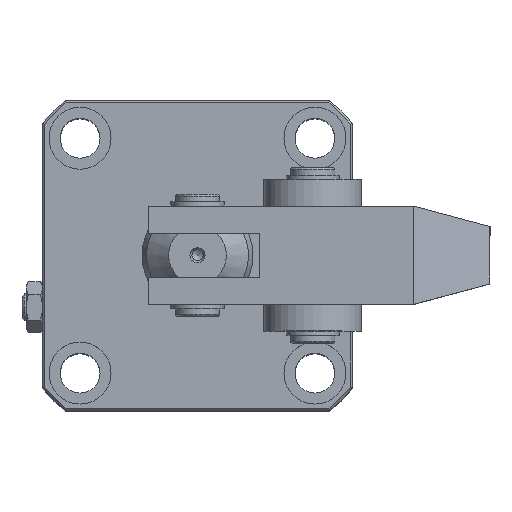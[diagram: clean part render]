
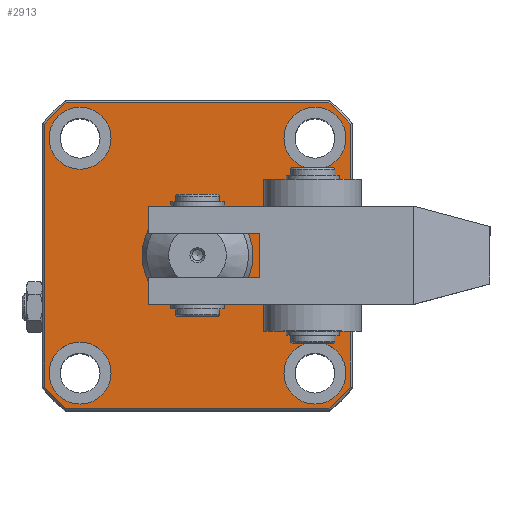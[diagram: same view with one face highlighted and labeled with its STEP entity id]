
A CAD part, top view. The second image highlights one B-rep face of the part: STEP entity #2913.
In plain terms, the highlighted planar face has unit normal (0, 0, 1).
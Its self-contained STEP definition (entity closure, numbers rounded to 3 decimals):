
#232=LINE('',#4455,#387);
#233=LINE('',#4458,#388);
#234=LINE('',#4460,#389);
#235=LINE('',#4464,#390);
#236=LINE('',#4468,#391);
#237=LINE('',#4472,#392);
#238=LINE('',#4476,#393);
#239=LINE('',#4478,#394);
#387=VECTOR('',#3579,1000.);
#388=VECTOR('',#3580,1000.);
#389=VECTOR('',#3581,1000.);
#390=VECTOR('',#3584,1000.);
#391=VECTOR('',#3587,1000.);
#392=VECTOR('',#3590,1000.);
#393=VECTOR('',#3593,1000.);
#394=VECTOR('',#3594,1000.);
#542=PLANE('',#3203);
#642=ORIENTED_EDGE('',*,*,#1429,.T.);
#643=ORIENTED_EDGE('',*,*,#1430,.F.);
#644=ORIENTED_EDGE('',*,*,#1431,.F.);
#645=ORIENTED_EDGE('',*,*,#1432,.F.);
#646=ORIENTED_EDGE('',*,*,#1433,.F.);
#647=ORIENTED_EDGE('',*,*,#1434,.T.);
#648=ORIENTED_EDGE('',*,*,#1435,.T.);
#649=ORIENTED_EDGE('',*,*,#1436,.T.);
#650=ORIENTED_EDGE('',*,*,#1437,.T.);
#651=ORIENTED_EDGE('',*,*,#1438,.T.);
#652=ORIENTED_EDGE('',*,*,#1439,.T.);
#653=ORIENTED_EDGE('',*,*,#1440,.T.);
#654=ORIENTED_EDGE('',*,*,#1441,.T.);
#655=ORIENTED_EDGE('',*,*,#1442,.T.);
#656=ORIENTED_EDGE('',*,*,#1443,.T.);
#657=ORIENTED_EDGE('',*,*,#1444,.T.);
#658=ORIENTED_EDGE('',*,*,#1445,.F.);
#1429=EDGE_CURVE('',#1823,#1823,#2097,.T.);
#1430=EDGE_CURVE('',#1824,#1824,#2098,.T.);
#1431=EDGE_CURVE('',#1825,#1825,#2099,.T.);
#1432=EDGE_CURVE('',#1826,#1826,#2100,.T.);
#1433=EDGE_CURVE('',#1827,#1827,#2101,.T.);
#1434=EDGE_CURVE('',#1828,#1829,#232,.T.);
#1435=EDGE_CURVE('',#1829,#1830,#233,.T.);
#1436=EDGE_CURVE('',#1830,#1831,#234,.T.);
#1437=EDGE_CURVE('',#1831,#1832,#2102,.T.);
#1438=EDGE_CURVE('',#1832,#1833,#235,.T.);
#1439=EDGE_CURVE('',#1833,#1834,#2103,.T.);
#1440=EDGE_CURVE('',#1834,#1835,#236,.T.);
#1441=EDGE_CURVE('',#1835,#1836,#2104,.T.);
#1442=EDGE_CURVE('',#1836,#1837,#237,.T.);
#1443=EDGE_CURVE('',#1837,#1838,#2105,.T.);
#1444=EDGE_CURVE('',#1838,#1839,#238,.T.);
#1445=EDGE_CURVE('',#1828,#1839,#239,.T.);
#1823=VERTEX_POINT('',#4445);
#1824=VERTEX_POINT('',#4448);
#1825=VERTEX_POINT('',#4450);
#1826=VERTEX_POINT('',#4452);
#1827=VERTEX_POINT('',#4454);
#1828=VERTEX_POINT('',#4456);
#1829=VERTEX_POINT('',#4457);
#1830=VERTEX_POINT('',#4459);
#1831=VERTEX_POINT('',#4461);
#1832=VERTEX_POINT('',#4463);
#1833=VERTEX_POINT('',#4465);
#1834=VERTEX_POINT('',#4467);
#1835=VERTEX_POINT('',#4469);
#1836=VERTEX_POINT('',#4471);
#1837=VERTEX_POINT('',#4473);
#1838=VERTEX_POINT('',#4475);
#1839=VERTEX_POINT('',#4477);
#2097=CIRCLE('',#3202,12.5);
#2098=CIRCLE('',#3204,7.);
#2099=CIRCLE('',#3205,7.);
#2100=CIRCLE('',#3206,7.);
#2101=CIRCLE('',#3207,7.);
#2102=CIRCLE('',#3208,45.5);
#2103=CIRCLE('',#3209,45.5);
#2104=CIRCLE('',#3210,45.5);
#2105=CIRCLE('',#3211,45.5);
#2246=EDGE_LOOP('',(#642));
#2247=EDGE_LOOP('',(#643));
#2248=EDGE_LOOP('',(#644));
#2249=EDGE_LOOP('',(#645));
#2250=EDGE_LOOP('',(#646));
#2251=EDGE_LOOP('',(#647,#648,#649,#650,#651,#652,#653,#654,#655,#656,#657,
#658));
#2551=FACE_BOUND('',#2246,.T.);
#2552=FACE_BOUND('',#2247,.T.);
#2553=FACE_BOUND('',#2248,.T.);
#2554=FACE_BOUND('',#2249,.T.);
#2555=FACE_BOUND('',#2250,.T.);
#2556=FACE_BOUND('',#2251,.T.);
#2913=ADVANCED_FACE('',(#2551,#2552,#2553,#2554,#2555,#2556),#542,.T.);
#3202=AXIS2_PLACEMENT_3D('',#4444,#3567,#3568);
#3203=AXIS2_PLACEMENT_3D('',#4446,#3569,#3570);
#3204=AXIS2_PLACEMENT_3D('',#4447,#3571,#3572);
#3205=AXIS2_PLACEMENT_3D('',#4449,#3573,#3574);
#3206=AXIS2_PLACEMENT_3D('',#4451,#3575,#3576);
#3207=AXIS2_PLACEMENT_3D('',#4453,#3577,#3578);
#3208=AXIS2_PLACEMENT_3D('',#4462,#3582,#3583);
#3209=AXIS2_PLACEMENT_3D('',#4466,#3585,#3586);
#3210=AXIS2_PLACEMENT_3D('',#4470,#3588,#3589);
#3211=AXIS2_PLACEMENT_3D('',#4474,#3591,#3592);
#3567=DIRECTION('',(0.,0.,-1.));
#3568=DIRECTION('',(0.,-1.,0.));
#3569=DIRECTION('',(0.,0.,1.));
#3570=DIRECTION('',(1.,0.,0.));
#3571=DIRECTION('',(0.,0.,1.));
#3572=DIRECTION('',(1.,0.,0.));
#3573=DIRECTION('',(0.,0.,1.));
#3574=DIRECTION('',(1.,0.,0.));
#3575=DIRECTION('',(0.,0.,1.));
#3576=DIRECTION('',(1.,0.,0.));
#3577=DIRECTION('',(0.,0.,1.));
#3578=DIRECTION('',(1.,0.,0.));
#3579=DIRECTION('',(0.,1.,0.));
#3580=DIRECTION('',(1.,0.,0.));
#3581=DIRECTION('',(0.,1.,0.));
#3582=DIRECTION('',(0.,0.,1.));
#3583=DIRECTION('',(1.,0.,0.));
#3584=DIRECTION('',(-1.,0.,0.));
#3585=DIRECTION('',(0.,0.,1.));
#3586=DIRECTION('',(1.,0.,0.));
#3587=DIRECTION('',(0.,-1.,0.));
#3588=DIRECTION('',(0.,0.,1.));
#3589=DIRECTION('',(1.,0.,0.));
#3590=DIRECTION('',(1.,0.,0.));
#3591=DIRECTION('',(0.,0.,1.));
#3592=DIRECTION('',(1.,0.,0.));
#3593=DIRECTION('',(0.,1.,0.));
#3594=DIRECTION('',(1.,0.,0.));
#4444=CARTESIAN_POINT('',(0.,0.,90.));
#4445=CARTESIAN_POINT('',(0.,-12.5,90.));
#4446=CARTESIAN_POINT('',(0.,0.,90.));
#4447=CARTESIAN_POINT('',(26.5,-26.5,90.));
#4448=CARTESIAN_POINT('',(33.5,-26.5,90.));
#4449=CARTESIAN_POINT('',(-26.5,-26.5,90.));
#4450=CARTESIAN_POINT('',(-19.5,-26.5,90.));
#4451=CARTESIAN_POINT('',(-26.5,26.5,90.));
#4452=CARTESIAN_POINT('',(-19.5,26.5,90.));
#4453=CARTESIAN_POINT('',(26.5,26.5,90.));
#4454=CARTESIAN_POINT('',(33.5,26.5,90.));
#4455=CARTESIAN_POINT('',(16.,-11.1,90.));
#4456=CARTESIAN_POINT('',(16.,-11.1,90.));
#4457=CARTESIAN_POINT('',(16.,11.1,90.));
#4458=CARTESIAN_POINT('',(16.,11.1,90.));
#4459=CARTESIAN_POINT('',(34.5,11.1,90.));
#4460=CARTESIAN_POINT('',(34.5,29.85,90.));
#4461=CARTESIAN_POINT('',(34.5,29.665,90.));
#4462=CARTESIAN_POINT('',(0.,0.,90.));
#4463=CARTESIAN_POINT('',(29.665,34.5,90.));
#4464=CARTESIAN_POINT('',(-29.85,34.5,90.));
#4465=CARTESIAN_POINT('',(-29.665,34.5,90.));
#4466=CARTESIAN_POINT('',(0.,0.,90.));
#4467=CARTESIAN_POINT('',(-34.5,29.665,90.));
#4468=CARTESIAN_POINT('',(-34.5,-29.85,90.));
#4469=CARTESIAN_POINT('',(-34.5,-29.665,90.));
#4470=CARTESIAN_POINT('',(0.,0.,90.));
#4471=CARTESIAN_POINT('',(-29.665,-34.5,90.));
#4472=CARTESIAN_POINT('',(29.85,-34.5,90.));
#4473=CARTESIAN_POINT('',(29.665,-34.5,90.));
#4474=CARTESIAN_POINT('',(0.,0.,90.));
#4475=CARTESIAN_POINT('',(34.5,-29.665,90.));
#4476=CARTESIAN_POINT('',(34.5,29.85,90.));
#4477=CARTESIAN_POINT('',(34.5,-11.1,90.));
#4478=CARTESIAN_POINT('',(16.,-11.1,90.));
